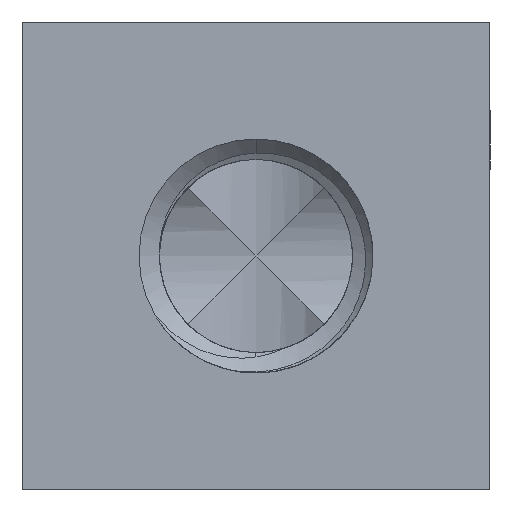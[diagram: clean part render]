
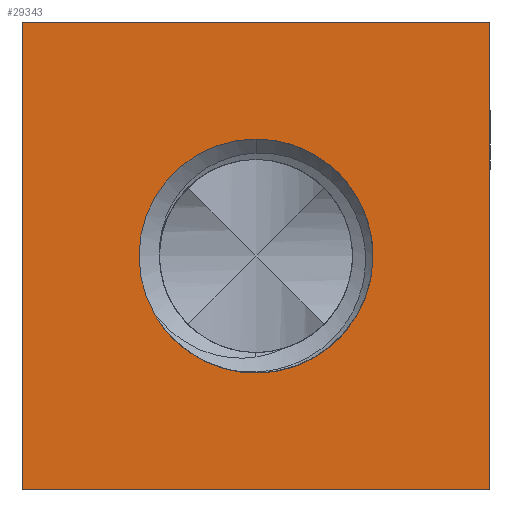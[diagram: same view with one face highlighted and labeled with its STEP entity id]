
A CAD part, front view. The second image highlights one B-rep face of the part: STEP entity #29343.
In plain terms, the highlighted planar face has unit normal (0, -1, 0).
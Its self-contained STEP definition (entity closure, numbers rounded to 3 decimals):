
#335 = DIRECTION ( 'NONE',  ( 0., 1., 0. ) ) ;
#1390 = LINE ( 'NONE', #34225, #9029 ) ;
#1844 = CARTESIAN_POINT ( 'NONE',  ( 0., -4., 0. ) ) ;
#2466 = VERTEX_POINT ( 'NONE', #5555 ) ;
#2590 = DIRECTION ( 'NONE',  ( 0., 1., 0. ) ) ;
#3527 = AXIS2_PLACEMENT_3D ( 'NONE', #1844, #39485, #46512 ) ;
#5555 = CARTESIAN_POINT ( 'NONE',  ( 4., -4., 4. ) ) ;
#6546 = CIRCLE ( 'NONE', #16164, 2. ) ;
#7574 = DIRECTION ( 'NONE',  ( 0., 1., 0. ) ) ;
#8703 = VERTEX_POINT ( 'NONE', #20805 ) ;
#9029 = VECTOR ( 'NONE', #15890, 1000. ) ;
#9798 = EDGE_CURVE ( 'NONE', #35685, #8703, #6546, .T. ) ;
#10113 = LINE ( 'NONE', #22818, #31205 ) ;
#11664 = EDGE_CURVE ( 'NONE', #18376, #35685, #28761, .T. ) ;
#13172 = EDGE_LOOP ( 'NONE', ( #18586, #17375, #25250, #24133 ) ) ;
#13339 = ORIENTED_EDGE ( 'NONE', *, *, #17630, .F. ) ;
#13497 = VERTEX_POINT ( 'NONE', #34228 ) ;
#14581 = AXIS2_PLACEMENT_3D ( 'NONE', #37524, #7574, #15111 ) ;
#15111 = DIRECTION ( 'NONE',  ( 0., 0., 1. ) ) ;
#15890 = DIRECTION ( 'NONE',  ( 0., 0., 1. ) ) ;
#16104 = AXIS2_PLACEMENT_3D ( 'NONE', #44688, #335, #18546 ) ;
#16164 = AXIS2_PLACEMENT_3D ( 'NONE', #46987, #24126, #27903 ) ;
#16608 = CARTESIAN_POINT ( 'NONE',  ( -4., -4., 4. ) ) ;
#17375 = ORIENTED_EDGE ( 'NONE', *, *, #22629, .T. ) ;
#17630 = EDGE_CURVE ( 'NONE', #44409, #2466, #18469, .T. ) ;
#18376 = VERTEX_POINT ( 'NONE', #21501 ) ;
#18469 = LINE ( 'NONE', #39981, #32509 ) ;
#18546 = DIRECTION ( 'NONE',  ( 0., 0., 1. ) ) ;
#18586 = ORIENTED_EDGE ( 'NONE', *, *, #9798, .T. ) ;
#18984 = CIRCLE ( 'NONE', #16104, 2. ) ;
#20527 = ORIENTED_EDGE ( 'NONE', *, *, #43340, .T. ) ;
#20805 = CARTESIAN_POINT ( 'NONE',  ( -1.728, -4., -1.007 ) ) ;
#21363 = EDGE_CURVE ( 'NONE', #35912, #18376, #21906, .T. ) ;
#21501 = CARTESIAN_POINT ( 'NONE',  ( 0., -4., -2. ) ) ;
#21906 = CIRCLE ( 'NONE', #3527, 2. ) ;
#22629 = EDGE_CURVE ( 'NONE', #8703, #35912, #18984, .T. ) ;
#22818 = CARTESIAN_POINT ( 'NONE',  ( -4., -4., 0. ) ) ;
#24126 = DIRECTION ( 'NONE',  ( 0., 1., 0. ) ) ;
#24133 = ORIENTED_EDGE ( 'NONE', *, *, #11664, .T. ) ;
#24455 = ORIENTED_EDGE ( 'NONE', *, *, #42658, .F. ) ;
#24600 = DIRECTION ( 'NONE',  ( 1., 0., 0. ) ) ;
#25048 = PLANE ( 'NONE',  #40360 ) ;
#25250 = ORIENTED_EDGE ( 'NONE', *, *, #21363, .T. ) ;
#27088 = CARTESIAN_POINT ( 'NONE',  ( 0., -4., -4. ) ) ;
#27903 = DIRECTION ( 'NONE',  ( 0., 0., 1. ) ) ;
#28761 = CIRCLE ( 'NONE', #14581, 2. ) ;
#29343 = ADVANCED_FACE ( 'NONE', ( #40743, #34353 ), #25048, .F. ) ;
#30971 = CARTESIAN_POINT ( 'NONE',  ( -0.489, -4., -1.939 ) ) ;
#31205 = VECTOR ( 'NONE', #33923, 1000. ) ;
#32376 = LINE ( 'NONE', #27088, #45817 ) ;
#32509 = VECTOR ( 'NONE', #43743, 1000. ) ;
#33923 = DIRECTION ( 'NONE',  ( 0., 0., 1. ) ) ;
#34225 = CARTESIAN_POINT ( 'NONE',  ( 4., -4., 0. ) ) ;
#34228 = CARTESIAN_POINT ( 'NONE',  ( 4., -4., -4. ) ) ;
#34353 = FACE_OUTER_BOUND ( 'NONE', #47820, .T. ) ;
#35659 = DIRECTION ( 'NONE',  ( 0., 0., 1. ) ) ;
#35685 = VERTEX_POINT ( 'NONE', #30971 ) ;
#35912 = VERTEX_POINT ( 'NONE', #37124 ) ;
#37124 = CARTESIAN_POINT ( 'NONE',  ( 0., -4., 2. ) ) ;
#37524 = CARTESIAN_POINT ( 'NONE',  ( 0., -4., 0. ) ) ;
#37837 = EDGE_CURVE ( 'NONE', #13497, #2466, #1390, .T. ) ;
#39485 = DIRECTION ( 'NONE',  ( 0., 1., 0. ) ) ;
#39667 = CARTESIAN_POINT ( 'NONE',  ( -4., -4., -4. ) ) ;
#39981 = CARTESIAN_POINT ( 'NONE',  ( 0., -4., 4. ) ) ;
#40360 = AXIS2_PLACEMENT_3D ( 'NONE', #47247, #2590, #35659 ) ;
#40743 = FACE_BOUND ( 'NONE', #13172, .T. ) ;
#42658 = EDGE_CURVE ( 'NONE', #47402, #44409, #10113, .T. ) ;
#43340 = EDGE_CURVE ( 'NONE', #47402, #13497, #32376, .T. ) ;
#43743 = DIRECTION ( 'NONE',  ( 1., 0., 0. ) ) ;
#44409 = VERTEX_POINT ( 'NONE', #16608 ) ;
#44688 = CARTESIAN_POINT ( 'NONE',  ( 0., -4., 0. ) ) ;
#45817 = VECTOR ( 'NONE', #24600, 1000. ) ;
#46512 = DIRECTION ( 'NONE',  ( 0., 0., 1. ) ) ;
#46987 = CARTESIAN_POINT ( 'NONE',  ( 0., -4., 0. ) ) ;
#47247 = CARTESIAN_POINT ( 'NONE',  ( 0., -4., 0. ) ) ;
#47402 = VERTEX_POINT ( 'NONE', #39667 ) ;
#47820 = EDGE_LOOP ( 'NONE', ( #13339, #24455, #20527, #48205 ) ) ;
#48205 = ORIENTED_EDGE ( 'NONE', *, *, #37837, .T. ) ;
